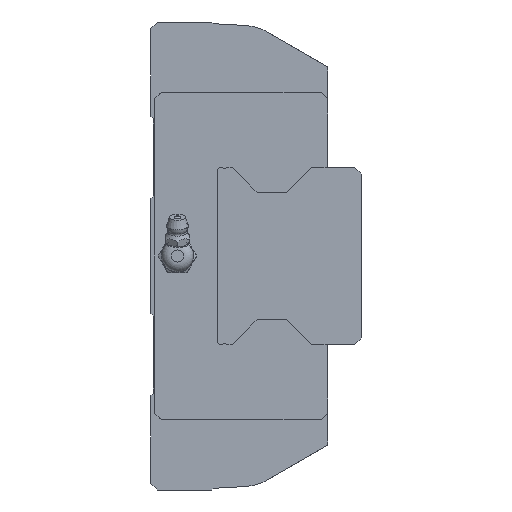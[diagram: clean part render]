
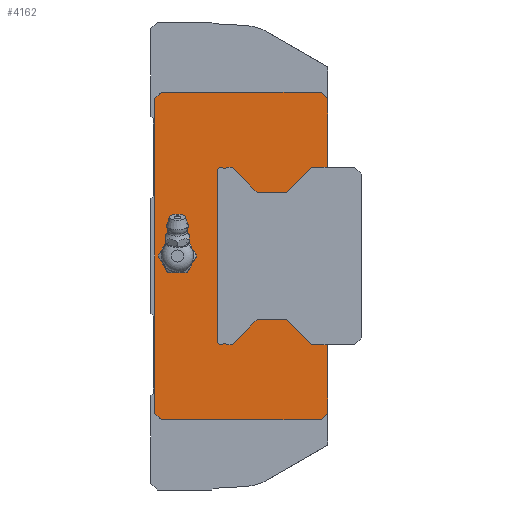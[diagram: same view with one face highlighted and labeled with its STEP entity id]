
A CAD part, left-side view. The second image highlights one B-rep face of the part: STEP entity #4162.
In plain terms, the highlighted planar face has unit normal (-1, 0, 0).
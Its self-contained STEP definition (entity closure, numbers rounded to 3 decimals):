
#179=CIRCLE('',#4523,4.864);
#180=CIRCLE('',#4524,0.29);
#181=CIRCLE('',#4525,0.29);
#182=CIRCLE('',#4526,1.);
#183=CIRCLE('',#4527,1.);
#184=CIRCLE('',#4528,0.29);
#185=CIRCLE('',#4529,0.29);
#715=ORIENTED_EDGE('',*,*,#1693,.T.);
#716=ORIENTED_EDGE('',*,*,#1694,.T.);
#717=ORIENTED_EDGE('',*,*,#1682,.F.);
#718=ORIENTED_EDGE('',*,*,#1646,.F.);
#719=ORIENTED_EDGE('',*,*,#1642,.F.);
#720=ORIENTED_EDGE('',*,*,#1634,.F.);
#721=ORIENTED_EDGE('',*,*,#1670,.F.);
#722=ORIENTED_EDGE('',*,*,#1619,.F.);
#723=ORIENTED_EDGE('',*,*,#1657,.F.);
#724=ORIENTED_EDGE('',*,*,#1654,.F.);
#725=ORIENTED_EDGE('',*,*,#1684,.F.);
#726=ORIENTED_EDGE('',*,*,#1695,.T.);
#727=ORIENTED_EDGE('',*,*,#1696,.T.);
#728=ORIENTED_EDGE('',*,*,#1697,.F.);
#729=ORIENTED_EDGE('',*,*,#1698,.T.);
#730=ORIENTED_EDGE('',*,*,#1699,.F.);
#731=ORIENTED_EDGE('',*,*,#1700,.T.);
#732=ORIENTED_EDGE('',*,*,#1701,.T.);
#733=ORIENTED_EDGE('',*,*,#1702,.T.);
#734=ORIENTED_EDGE('',*,*,#1703,.T.);
#735=ORIENTED_EDGE('',*,*,#1704,.T.);
#736=ORIENTED_EDGE('',*,*,#1572,.T.);
#737=ORIENTED_EDGE('',*,*,#1705,.T.);
#738=ORIENTED_EDGE('',*,*,#1706,.T.);
#739=ORIENTED_EDGE('',*,*,#1707,.T.);
#740=ORIENTED_EDGE('',*,*,#1708,.T.);
#741=ORIENTED_EDGE('',*,*,#1709,.T.);
#742=ORIENTED_EDGE('',*,*,#1710,.F.);
#743=ORIENTED_EDGE('',*,*,#1711,.T.);
#744=ORIENTED_EDGE('',*,*,#1712,.F.);
#745=ORIENTED_EDGE('',*,*,#1713,.T.);
#1572=EDGE_CURVE('',#2111,#2113,#2485,.T.);
#1619=EDGE_CURVE('',#2152,#2153,#2530,.T.);
#1634=EDGE_CURVE('',#2167,#2168,#2545,.T.);
#1642=EDGE_CURVE('',#2168,#2174,#2552,.T.);
#1646=EDGE_CURVE('',#2174,#2176,#2556,.T.);
#1654=EDGE_CURVE('',#2183,#2184,#2564,.T.);
#1657=EDGE_CURVE('',#2184,#2152,#2567,.T.);
#1670=EDGE_CURVE('',#2153,#2167,#2575,.T.);
#1682=EDGE_CURVE('',#2176,#2191,#2585,.T.);
#1684=EDGE_CURVE('',#2198,#2183,#2587,.T.);
#1693=EDGE_CURVE('',#2206,#2206,#179,.T.);
#1694=EDGE_CURVE('',#2207,#2191,#2594,.T.);
#1695=EDGE_CURVE('',#2198,#2208,#2595,.T.);
#1696=EDGE_CURVE('',#2208,#2209,#2596,.T.);
#1697=EDGE_CURVE('',#2210,#2209,#180,.T.);
#1698=EDGE_CURVE('',#2210,#2211,#2597,.T.);
#1699=EDGE_CURVE('',#2212,#2211,#181,.T.);
#1700=EDGE_CURVE('',#2212,#2213,#2598,.T.);
#1701=EDGE_CURVE('',#2213,#2214,#2599,.T.);
#1702=EDGE_CURVE('',#2214,#2215,#2600,.T.);
#1703=EDGE_CURVE('',#2215,#2216,#2601,.T.);
#1704=EDGE_CURVE('',#2216,#2111,#182,.T.);
#1705=EDGE_CURVE('',#2113,#2217,#183,.T.);
#1706=EDGE_CURVE('',#2217,#2218,#2602,.T.);
#1707=EDGE_CURVE('',#2218,#2219,#2603,.T.);
#1708=EDGE_CURVE('',#2219,#2220,#2604,.T.);
#1709=EDGE_CURVE('',#2220,#2221,#2605,.T.);
#1710=EDGE_CURVE('',#2222,#2221,#184,.T.);
#1711=EDGE_CURVE('',#2222,#2223,#2606,.T.);
#1712=EDGE_CURVE('',#2224,#2223,#185,.T.);
#1713=EDGE_CURVE('',#2224,#2207,#2607,.T.);
#2111=VERTEX_POINT('',#6260);
#2113=VERTEX_POINT('',#6264);
#2152=VERTEX_POINT('',#6359);
#2153=VERTEX_POINT('',#6361);
#2167=VERTEX_POINT('',#6390);
#2168=VERTEX_POINT('',#6392);
#2174=VERTEX_POINT('',#6408);
#2176=VERTEX_POINT('',#6415);
#2183=VERTEX_POINT('',#6430);
#2184=VERTEX_POINT('',#6432);
#2191=VERTEX_POINT('',#6467);
#2198=VERTEX_POINT('',#6485);
#2206=VERTEX_POINT('',#6504);
#2207=VERTEX_POINT('',#6506);
#2208=VERTEX_POINT('',#6508);
#2209=VERTEX_POINT('',#6510);
#2210=VERTEX_POINT('',#6512);
#2211=VERTEX_POINT('',#6514);
#2212=VERTEX_POINT('',#6516);
#2213=VERTEX_POINT('',#6518);
#2214=VERTEX_POINT('',#6520);
#2215=VERTEX_POINT('',#6522);
#2216=VERTEX_POINT('',#6524);
#2217=VERTEX_POINT('',#6527);
#2218=VERTEX_POINT('',#6529);
#2219=VERTEX_POINT('',#6531);
#2220=VERTEX_POINT('',#6533);
#2221=VERTEX_POINT('',#6535);
#2222=VERTEX_POINT('',#6537);
#2223=VERTEX_POINT('',#6539);
#2224=VERTEX_POINT('',#6541);
#2485=LINE('',#6265,#2861);
#2530=LINE('',#6360,#2906);
#2545=LINE('',#6391,#2921);
#2552=LINE('',#6407,#2928);
#2556=LINE('',#6414,#2932);
#2564=LINE('',#6431,#2940);
#2567=LINE('',#6436,#2943);
#2575=LINE('',#6460,#2951);
#2585=LINE('',#6482,#2961);
#2587=LINE('',#6487,#2963);
#2594=LINE('',#6505,#2970);
#2595=LINE('',#6507,#2971);
#2596=LINE('',#6509,#2972);
#2597=LINE('',#6513,#2973);
#2598=LINE('',#6517,#2974);
#2599=LINE('',#6519,#2975);
#2600=LINE('',#6521,#2976);
#2601=LINE('',#6523,#2977);
#2602=LINE('',#6528,#2978);
#2603=LINE('',#6530,#2979);
#2604=LINE('',#6532,#2980);
#2605=LINE('',#6534,#2981);
#2606=LINE('',#6538,#2982);
#2607=LINE('',#6542,#2983);
#2861=VECTOR('',#5093,1000.);
#2906=VECTOR('',#5160,1000.);
#2921=VECTOR('',#5177,1000.);
#2928=VECTOR('',#5190,1000.);
#2932=VECTOR('',#5196,1000.);
#2940=VECTOR('',#5206,1000.);
#2943=VECTOR('',#5211,1000.);
#2951=VECTOR('',#5241,1000.);
#2961=VECTOR('',#5259,1000.);
#2963=VECTOR('',#5263,1000.);
#2970=VECTOR('',#5278,1000.);
#2971=VECTOR('',#5279,1000.);
#2972=VECTOR('',#5280,1000.);
#2973=VECTOR('',#5283,1000.);
#2974=VECTOR('',#5286,1000.);
#2975=VECTOR('',#5287,1000.);
#2976=VECTOR('',#5288,1000.);
#2977=VECTOR('',#5289,1000.);
#2978=VECTOR('',#5294,1000.);
#2979=VECTOR('',#5295,1000.);
#2980=VECTOR('',#5296,1000.);
#2981=VECTOR('',#5297,1000.);
#2982=VECTOR('',#5300,1000.);
#2983=VECTOR('',#5303,1000.);
#3335=EDGE_LOOP('',(#715));
#3336=EDGE_LOOP('',(#716,#717,#718,#719,#720,#721,#722,#723,#724,#725,#726,
#727,#728,#729,#730,#731,#732,#733,#734,#735,#736,#737,#738,#739,#740,#741,
#742,#743,#744,#745));
#3704=FACE_BOUND('',#3335,.T.);
#3705=FACE_BOUND('',#3336,.T.);
#3970=PLANE('',#4522);
#4162=ADVANCED_FACE('',(#3704,#3705),#3970,.F.);
#4522=AXIS2_PLACEMENT_3D('',#6502,#5274,#5275);
#4523=AXIS2_PLACEMENT_3D('',#6503,#5276,#5277);
#4524=AXIS2_PLACEMENT_3D('',#6511,#5281,#5282);
#4525=AXIS2_PLACEMENT_3D('',#6515,#5284,#5285);
#4526=AXIS2_PLACEMENT_3D('',#6525,#5290,#5291);
#4527=AXIS2_PLACEMENT_3D('',#6526,#5292,#5293);
#4528=AXIS2_PLACEMENT_3D('',#6536,#5298,#5299);
#4529=AXIS2_PLACEMENT_3D('',#6540,#5301,#5302);
#5093=DIRECTION('',(0.,0.,1.));
#5160=DIRECTION('',(0.,0.707,0.707));
#5177=DIRECTION('',(0.,-0.707,0.707));
#5190=DIRECTION('',(0.,-1.,0.));
#5196=DIRECTION('',(0.,-0.707,-0.707));
#5206=DIRECTION('',(0.,0.707,-0.707));
#5211=DIRECTION('',(0.,1.,0.));
#5241=DIRECTION('',(0.,0.,1.));
#5259=DIRECTION('',(0.,0.,-1.));
#5263=DIRECTION('',(0.,0.,-1.));
#5274=DIRECTION('',(1.,0.,0.));
#5275=DIRECTION('',(0.,0.,-1.));
#5276=DIRECTION('',(1.,0.,0.));
#5277=DIRECTION('',(0.,0.,-1.));
#5278=DIRECTION('',(0.,-1.,0.));
#5279=DIRECTION('',(0.,1.,0.));
#5280=DIRECTION('',(0.,0.712,0.702));
#5281=DIRECTION('',(1.,0.,0.));
#5282=DIRECTION('',(0.,0.,-1.));
#5283=DIRECTION('',(0.,1.,0.));
#5284=DIRECTION('',(1.,0.,0.));
#5285=DIRECTION('',(0.,0.,-1.));
#5286=DIRECTION('',(0.,0.707,-0.707));
#5287=DIRECTION('',(0.,1.,0.));
#5288=DIRECTION('',(0.,0.707,0.707));
#5289=DIRECTION('',(0.,1.,0.));
#5290=DIRECTION('',(1.,0.,0.));
#5291=DIRECTION('',(0.,0.,-1.));
#5292=DIRECTION('',(1.,0.,0.));
#5293=DIRECTION('',(0.,0.,-1.));
#5294=DIRECTION('',(0.,-1.,0.));
#5295=DIRECTION('',(0.,-0.707,0.707));
#5296=DIRECTION('',(0.,-1.,0.));
#5297=DIRECTION('',(0.,-0.707,-0.707));
#5298=DIRECTION('',(1.,0.,0.));
#5299=DIRECTION('',(0.,0.,-1.));
#5300=DIRECTION('',(0.,-1.,0.));
#5301=DIRECTION('',(1.,0.,0.));
#5302=DIRECTION('',(0.,0.,-1.));
#5303=DIRECTION('',(0.,-0.712,0.702));
#6260=CARTESIAN_POINT('',(-92.5,33.,-25.5));
#6264=CARTESIAN_POINT('',(-92.5,33.,25.5));
#6265=CARTESIAN_POINT('',(-92.5,33.,-25.5));
#6359=CARTESIAN_POINT('',(-92.5,49.8,-49.));
#6360=CARTESIAN_POINT('',(-92.5,49.8,-49.));
#6361=CARTESIAN_POINT('',(-92.5,51.8,-47.));
#6390=CARTESIAN_POINT('',(-92.5,51.8,47.));
#6391=CARTESIAN_POINT('',(-92.5,51.8,47.));
#6392=CARTESIAN_POINT('',(-92.5,49.8,49.));
#6407=CARTESIAN_POINT('',(-92.5,49.8,49.));
#6408=CARTESIAN_POINT('',(-92.5,2.,49.));
#6414=CARTESIAN_POINT('',(-92.5,2.,49.));
#6415=CARTESIAN_POINT('',(-92.5,0.,47.));
#6430=CARTESIAN_POINT('',(-92.5,0.,-47.));
#6431=CARTESIAN_POINT('',(-92.5,0.,-47.));
#6432=CARTESIAN_POINT('',(-92.5,2.,-49.));
#6436=CARTESIAN_POINT('',(-92.5,2.,-49.));
#6460=CARTESIAN_POINT('',(-92.5,51.8,-47.));
#6467=CARTESIAN_POINT('',(-92.5,0.,26.5));
#6482=CARTESIAN_POINT('',(-92.5,0.,47.));
#6485=CARTESIAN_POINT('',(-92.5,0.,-26.5));
#6487=CARTESIAN_POINT('',(-92.5,0.,47.));
#6502=CARTESIAN_POINT('',(-92.5,0.,0.));
#6503=CARTESIAN_POINT('',(-92.5,45.,0.));
#6504=CARTESIAN_POINT('',(-92.5,45.,-4.864));
#6505=CARTESIAN_POINT('',(-92.5,4.83,26.5));
#6506=CARTESIAN_POINT('',(-92.5,4.83,26.5));
#6507=CARTESIAN_POINT('',(-92.5,-8.,-26.5));
#6508=CARTESIAN_POINT('',(-92.5,4.83,-26.5));
#6509=CARTESIAN_POINT('',(-92.5,4.83,-26.5));
#6510=CARTESIAN_POINT('',(-92.5,12.345,-19.084));
#6511=CARTESIAN_POINT('',(-92.5,12.549,-19.29));
#6512=CARTESIAN_POINT('',(-92.5,12.549,-19.));
#6513=CARTESIAN_POINT('',(-92.5,12.549,-19.));
#6514=CARTESIAN_POINT('',(-92.5,20.98,-19.));
#6515=CARTESIAN_POINT('',(-92.5,20.98,-19.29));
#6516=CARTESIAN_POINT('',(-92.5,21.185,-19.085));
#6517=CARTESIAN_POINT('',(-92.5,21.185,-19.085));
#6518=CARTESIAN_POINT('',(-92.5,28.6,-26.5));
#6519=CARTESIAN_POINT('',(-92.5,28.6,-26.5));
#6520=CARTESIAN_POINT('',(-92.5,30.25,-26.5));
#6521=CARTESIAN_POINT('',(-92.5,30.25,-26.5));
#6522=CARTESIAN_POINT('',(-92.5,30.5,-26.25));
#6523=CARTESIAN_POINT('',(-92.5,30.5,-26.25));
#6524=CARTESIAN_POINT('',(-92.5,31.339,-26.25));
#6525=CARTESIAN_POINT('',(-92.5,32.,-25.5));
#6526=CARTESIAN_POINT('',(-92.5,32.,25.5));
#6527=CARTESIAN_POINT('',(-92.5,31.339,26.25));
#6528=CARTESIAN_POINT('',(-92.5,31.339,26.25));
#6529=CARTESIAN_POINT('',(-92.5,30.5,26.25));
#6530=CARTESIAN_POINT('',(-92.5,30.5,26.25));
#6531=CARTESIAN_POINT('',(-92.5,30.25,26.5));
#6532=CARTESIAN_POINT('',(-92.5,30.25,26.5));
#6533=CARTESIAN_POINT('',(-92.5,28.6,26.5));
#6534=CARTESIAN_POINT('',(-92.5,28.6,26.5));
#6535=CARTESIAN_POINT('',(-92.5,21.185,19.085));
#6536=CARTESIAN_POINT('',(-92.5,20.98,19.29));
#6537=CARTESIAN_POINT('',(-92.5,20.98,19.));
#6538=CARTESIAN_POINT('',(-92.5,20.98,19.));
#6539=CARTESIAN_POINT('',(-92.5,12.549,19.));
#6540=CARTESIAN_POINT('',(-92.5,12.549,19.29));
#6541=CARTESIAN_POINT('',(-92.5,12.345,19.084));
#6542=CARTESIAN_POINT('',(-92.5,12.345,19.084));
